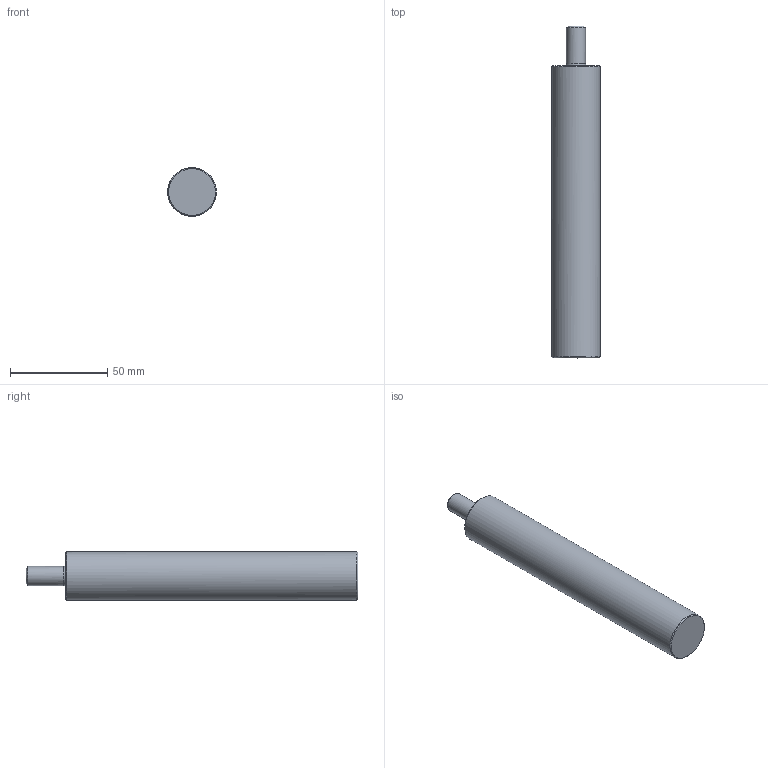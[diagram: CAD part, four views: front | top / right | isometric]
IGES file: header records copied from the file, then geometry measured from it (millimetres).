
Global section: file name: BM01-25D-150L; native system: unknown; preprocessor: unknown; author: unknown; organization: unknown; date: 20231024.134917; units: millimetre
Bounding box: 24.99 x 170.5 x 25 mm (x, y, z)
Volume: 75280.3 mm3; surface area: 13338.8 mm2
Topology: 1 solids, 1 shells, 9 faces, 16 edges, 10 vertices
Faces by surface type: bspline 9
